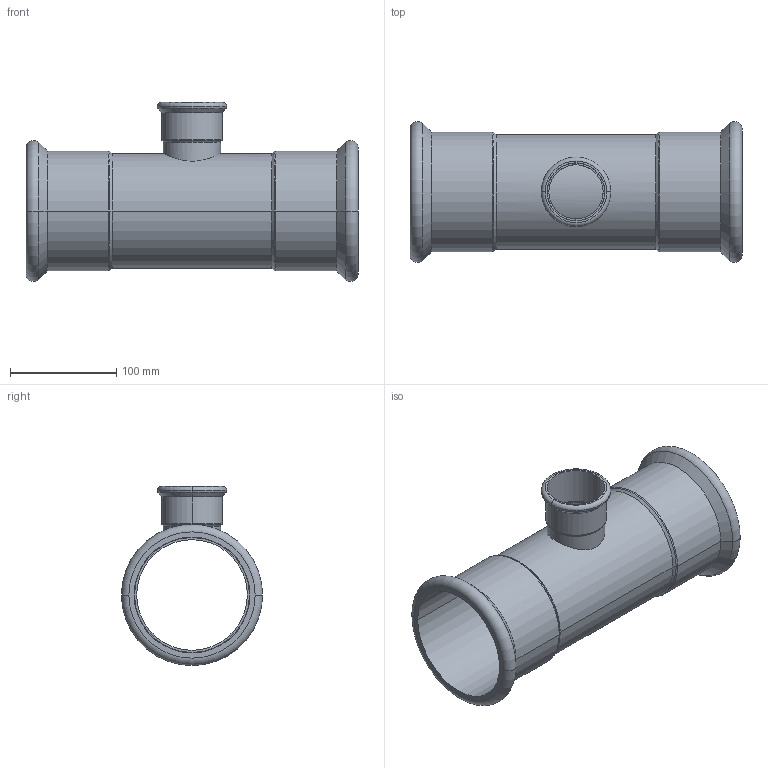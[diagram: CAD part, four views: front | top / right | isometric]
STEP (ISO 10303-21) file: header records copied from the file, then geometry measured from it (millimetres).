
FILE_DESCRIPTION(('CoCreate Modeling STEP Export'),'2;1');
FILE_NAME('C1415 108x54x108.stp','2014-11-12T10:59:44',(''),(''),'CoCreate Modeling STEP processor for AP214 (Solid Model)','CoCreate Modeling 17.00A 17-Jun-2010 (C) Parametric Technology GmbH','');
FILE_SCHEMA(('AUTOMOTIVE_DESIGN { 1 0 10303 214 1 1 1 1 }'));
Length unit declared in the file: millimetre
Products named in the file (2): C1415_108x54x108
Assembly tree (1 placements, depth 2):
  C1415_108x54x108
    C1415_108x54x108
Bounding box: 312 x 132.58 x 168.29 mm (x, y, z)
Volume: 338656.9 mm3; surface area: 245632.1 mm2
Topology: 1 solids, 1 shells, 62 faces, 127 edges, 75 vertices
Faces by surface type: cylinder 27, torus 14, cone 12, plane 9
Entity records: 2633 total; most frequent: CARTESIAN_POINT 1470, ORIENTED_EDGE 254, DIRECTION 206, EDGE_CURVE 127, AXIS2_PLACEMENT_3D 84, VERTEX_POINT 75, EDGE_LOOP 72, FACE_OUTER_BOUND 62
